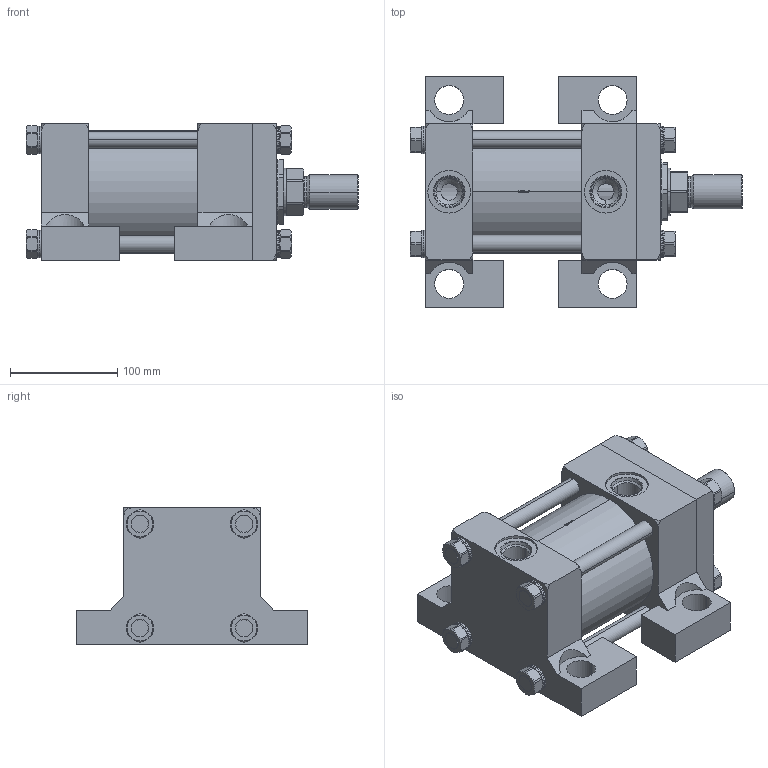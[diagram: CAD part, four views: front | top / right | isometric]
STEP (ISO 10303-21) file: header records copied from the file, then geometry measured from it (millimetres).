
FILE_DESCRIPTION (( 'STEP AP214' ), '1' );
FILE_NAME ('4.00C2HHNAT114A2.000.step', '2026-03-26T21:12:41', ( '' ), ( '' ), 'SwSTEP 2.0', 'SolidWorks 2023', '' );
FILE_SCHEMA (( 'AUTOMOTIVE_DESIGN' ));
Length unit declared in the file: inch
Products named in the file (1): 4.00C2HHNAT114A2.000
Bounding box: 309.56 x 215.9 x 127 mm (x, y, z)
Volume: 3052058.7 mm3; surface area: 487837.3 mm2
Topology: 44 solids, 44 shells, 1216 faces, 3136 edges, 2016 vertices
Faces by surface type: plane 802, cylinder 221, cone 163, bspline 22, torus 8
Entity records: 54906 total; most frequent: CARTESIAN_POINT 10681, ORIENTED_EDGE 6272, DIRECTION 5198, EDGE_CURVE 3136, VERTEX_POINT 2016, AXIS2_PLACEMENT_3D 1767, VECTOR 1664, LINE 1664
